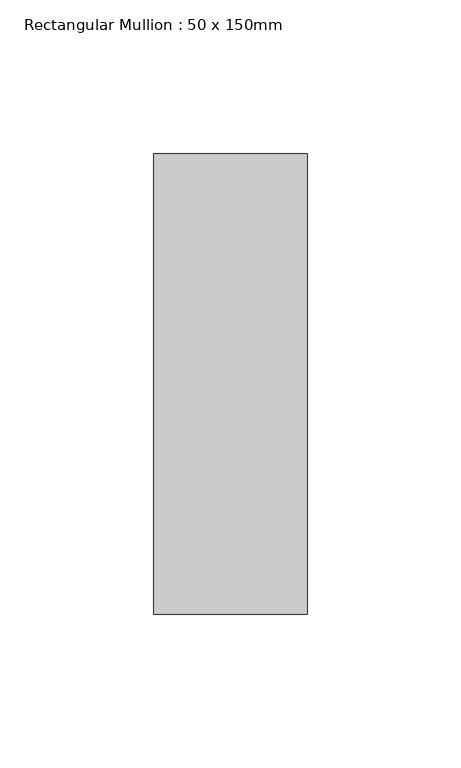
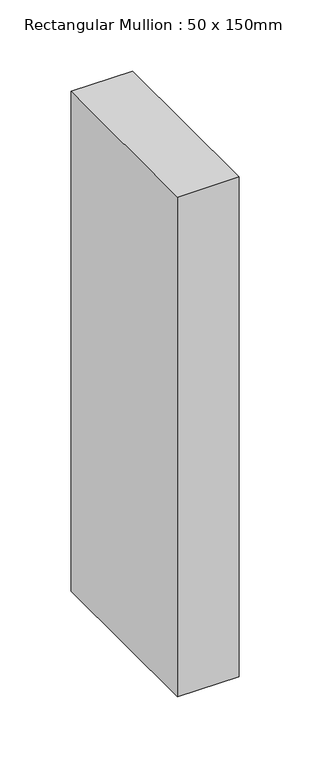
"""IFC4 building model written with IfcOpenShell, lengths in millimetres: member geometry, Rectangular Mullion : 50 x 150mm."""

import ifcopenshell
import ifcopenshell.guid

model = None  # the IFC model being written
_history = None  # IfcOwnerHistory: only IFC2X3 demands one
_inside = {}  # id of a spatial element -> (the spatial element, [elements in it])
_under = {}  # id of a project, library or spatial element -> (it, [spatial elements below it])
_declared = {}  # id of a project -> (the project, [libraries it declares])
_typed = {}  # id of a type object -> (the type object, [elements of that type])
_made_of = {}  # id of a material, layer set ... -> (it, [elements and type objects made of it])


def new_model(schema):
    """Start an empty IFC model of exactly this schema.

    Asked for "IFC4X3", IfcOpenShell would pick the latest addendum, in which some entities
    have other attributes; the version numbers below select the first issue.
    IFC2X3 requires an IfcOwnerHistory on every rooted entity: one is made here for all.
    """
    global model, _history
    if schema == "IFC4X3":
        model = ifcopenshell.file(schema_version=(4, 3, 0, 0))
    else:
        model = ifcopenshell.file(schema=schema)
    _inside.clear()
    _under.clear()
    _declared.clear()
    _typed.clear()
    _made_of.clear()
    _history = None
    if model.schema == "IFC2X3":
        org = make("IfcOrganization", Name="unknown")
        user = make(
            "IfcPersonAndOrganization",
            ThePerson=make("IfcPerson", FamilyName="unknown"),
            TheOrganization=org,
        )
        app = make(
            "IfcApplication",
            ApplicationDeveloper=org,
            Version="unknown",
            ApplicationFullName="unknown",
            ApplicationIdentifier="unknown",
        )
        _history = make(
            "IfcOwnerHistory",
            OwningUser=user,
            OwningApplication=app,
            ChangeAction="ADDED",
            CreationDate=0,
        )
    return model


def make(cls, **values):
    """One entity of the class cls with the attributes given. An attribute that is None is left unset."""
    return model.create_entity(
        cls, **{name: value for name, value in values.items() if value is not None}
    )


def rooted(cls, **values):
    """An entity with a GlobalId (a new one), such as an element, a storey or a relation."""
    return make(cls, GlobalId=ifcopenshell.guid.new(), OwnerHistory=_history, **values)


def si_unit(unit_type, name, prefix=None):
    """IfcSIUnit, for example si_unit("LENGTHUNIT", "METRE", prefix="MILLI")."""
    return make("IfcSIUnit", UnitType=unit_type, Prefix=prefix, Name=name)


def assignment(units):
    """IfcUnitAssignment: the units of a project."""
    return None if units is None else make("IfcUnitAssignment", Units=units)


def point(xyz):
    """IfcCartesianPoint."""
    return None if xyz is None else make("IfcCartesianPoint", Coordinates=xyz)


def direction(xyz):
    """IfcDirection."""
    return None if xyz is None else make("IfcDirection", DirectionRatios=xyz)


def frame(location, z_axis=None, x_axis=None):
    """IfcAxis2Placement3D, a coordinate frame: its origin and axes. An axis left out is left unset."""
    return make(
        "IfcAxis2Placement3D",
        Location=point(location),
        Axis=direction(z_axis),
        RefDirection=direction(x_axis),
    )


def origin():
    """The frame at (0, 0, 0) with its axes left unset."""
    return frame((0.0, 0.0, 0.0))


def place(relative_to, where):
    """IfcLocalPlacement: puts the frame where relative to a parent placement (None: the world)."""
    return make(
        "IfcLocalPlacement", PlacementRelTo=relative_to, RelativePlacement=where
    )


def context(
    kind, dimensions, precision=None, world=None, true_north=None, identifier=None
):
    """IfcGeometricRepresentationContext, for example the 3D "Model" context."""
    return make(
        "IfcGeometricRepresentationContext",
        ContextIdentifier=identifier,
        ContextType=kind,
        CoordinateSpaceDimension=dimensions,
        Precision=precision,
        WorldCoordinateSystem=world,
        TrueNorth=true_north,
    )


def project(units=None, contexts=None):
    """IfcProject with its units and contexts."""
    return rooted(
        "IfcProject",
        Name="project",
        RepresentationContexts=contexts,
        UnitsInContext=assignment(units),
    )


def spatial(cls, under=None, at=None, **own):
    """A site, building, storey or space (cls), placed at a placement, below another one or the project."""
    s = rooted(cls, ObjectPlacement=at, **own)
    if under is not None:
        _under.setdefault(under.id(), (under, []))[1].append(s)
    return s


def polyline(points):
    """IfcPolyline through the points."""
    return make("IfcPolyline", Points=[point(p) for p in points])


def outline(outer, holes=None, kind="AREA"):
    """IfcArbitraryClosedProfileDef: a profile drawn as a closed curve; with holes, ...WithVoids."""
    if holes is None:
        return make("IfcArbitraryClosedProfileDef", ProfileType=kind, OuterCurve=outer)
    return make(
        "IfcArbitraryProfileDefWithVoids",
        ProfileType=kind,
        OuterCurve=outer,
        InnerCurves=holes,
    )


def extrude(swept, where, along, depth):
    """IfcExtrudedAreaSolid: the profile swept, set in the frame where, extruded along a direction by depth."""
    return make(
        "IfcExtrudedAreaSolid",
        SweptArea=swept,
        Position=where,
        ExtrudedDirection=direction(along),
        Depth=depth,
    )


def shape(context_of_items, identifier, shape_type, items):
    """IfcShapeRepresentation: the items that make up one representation, for example the "Body"."""
    return make(
        "IfcShapeRepresentation",
        ContextOfItems=context_of_items,
        RepresentationIdentifier=identifier,
        RepresentationType=shape_type,
        Items=items,
    )


def source(mapping_origin, context_of_items, identifier, shape_type, items):
    """IfcRepresentationMap: a shape defined once, which mapped items show again and again."""
    return make(
        "IfcRepresentationMap",
        MappingOrigin=mapping_origin,
        MappedRepresentation=shape(context_of_items, identifier, shape_type, items),
    )


def transform(
    local_origin,
    x_axis=None,
    y_axis=None,
    z_axis=None,
    scale=None,
    scale2=None,
    scale3=None,
    uniform=True,
):
    """IfcCartesianTransformationOperator3D, or its non-uniform kind. x_axis, y_axis, z_axis: its Axis1, 2, 3."""
    if uniform:
        return make(
            "IfcCartesianTransformationOperator3D",
            Axis1=direction(x_axis),
            Axis2=direction(y_axis),
            LocalOrigin=point(local_origin),
            Scale=scale,
            Axis3=direction(z_axis),
        )
    return make(
        "IfcCartesianTransformationOperator3DnonUniform",
        Axis1=direction(x_axis),
        Axis2=direction(y_axis),
        LocalOrigin=point(local_origin),
        Scale=scale,
        Axis3=direction(z_axis),
        Scale2=scale2,
        Scale3=scale3,
    )


def mapped(mapping_source, mapping_target):
    """IfcMappedItem: shows the shape of a source again, moved by a transform."""
    return make(
        "IfcMappedItem", MappingSource=mapping_source, MappingTarget=mapping_target
    )


def made_of(thing, what):
    """Note that an element or type object is made of a material, layer set ...; save() writes the relation."""
    if what is not None:
        _made_of.setdefault(what.id(), (what, []))[1].append(thing)
    return thing


def element(
    cls,
    number,
    at=None,
    inside=None,
    cuts=None,
    type_object=None,
    material=None,
    context=None,
    identifier="Body",
    shape_type=None,
    held_by="IfcProductDefinitionShape",
    body=None,
    shapes=None,
    **own,
):
    """One element of the class cls, such as IfcWall. Its Tag is "e" and its number.

    at: its placement. inside: the storey or other place that contains it. cuts: it is an
    opening in that element (IfcRelVoidsElement). A single representation is given by context,
    identifier, shape_type and body (its items); several are given by shapes. held_by: the class
    of the entity that holds the representations. save() writes the other relations.
    """
    e = rooted(cls, Tag="e%d" % number, ObjectPlacement=at, **own)
    if body is not None:
        shapes = [shape(context, identifier, shape_type, body)]
    if shapes is not None:
        e.Representation = make(held_by, Representations=shapes)
    if inside is not None:
        _inside.setdefault(inside.id(), (inside, []))[1].append(e)
    if cuts is not None:
        rooted(
            "IfcRelVoidsElement", RelatingBuildingElement=cuts, RelatedOpeningElement=e
        )
    if type_object is not None:
        _typed.setdefault(type_object.id(), (type_object, []))[1].append(e)
    return made_of(e, material)


def aggregate(whole, parts):
    """IfcRelAggregates: a whole, such as a stair, and the parts it consists of."""
    return rooted("IfcRelAggregates", RelatingObject=whole, RelatedObjects=parts)


def save(model, path):
    """Write the relations noted so far, then the file.

    IfcRelAggregates (storeys below a building ...), IfcRelContainedInSpatialStructure (elements
    in a storey), IfcRelDefinesByType, IfcRelAssociatesMaterial and IfcRelDeclares: one each for
    every whole, place, type object, material and project.
    """
    for whole, parts in _under.values():
        aggregate(whole, parts)
    for where, things in _inside.values():
        rooted(
            "IfcRelContainedInSpatialStructure",
            RelatedElements=things,
            RelatingStructure=where,
        )
    for kind, things in _typed.values():
        rooted("IfcRelDefinesByType", RelatedObjects=things, RelatingType=kind)
    for what, things in _made_of.values():
        rooted("IfcRelAssociatesMaterial", RelatedObjects=things, RelatingMaterial=what)
    for by, libraries in _declared.values():
        rooted("IfcRelDeclares", RelatingContext=by, RelatedDefinitions=libraries)
    model.write(path)


def rectangular_mullion_50_x_150mm_f704ff47(model_context):
    return source(origin(), model_context, "Body", "SweptSolid", [
        extrude(outline(polyline([(25.0, 75.0), (25.0, -75.0), (-25.0, -75.0), (-25.0, 75.0), (25.0, 75.0)])), frame((0.0, 0.0, -429.0000002), z_axis=(0.0, 0.0, 1.0), x_axis=(1.0, 0.0, 0.0)), (0.0, 0.0, 1.0), 429.0000002),
    ])


if __name__ == "__main__":
    model = new_model("IFC4")
    model_context = context("Model", 3, world=origin())
    ifc_project = project(units=[si_unit("LENGTHUNIT", "METRE", prefix="MILLI")], contexts=[model_context])
    site = spatial("IfcSite", under=ifc_project)
    building = spatial("IfcBuilding", under=site)
    placement = place(None, origin())
    rectangular_mullion_50_x_150mm_shape = rectangular_mullion_50_x_150mm_f704ff47(model_context)
    element("IfcMember", 1, ObjectType="Rectangular Mullion : 50 x 150mm", at=placement, inside=building, context=model_context, shape_type="MappedRepresentation", body=[
        mapped(rectangular_mullion_50_x_150mm_shape, transform((0.0, 0.0, 0.0), x_axis=(1.0, 0.0, 0.0), y_axis=(0.0, 1.0, 0.0), z_axis=(0.0, 0.0, 1.0))),
    ])
    save(model, "model.ifc")
